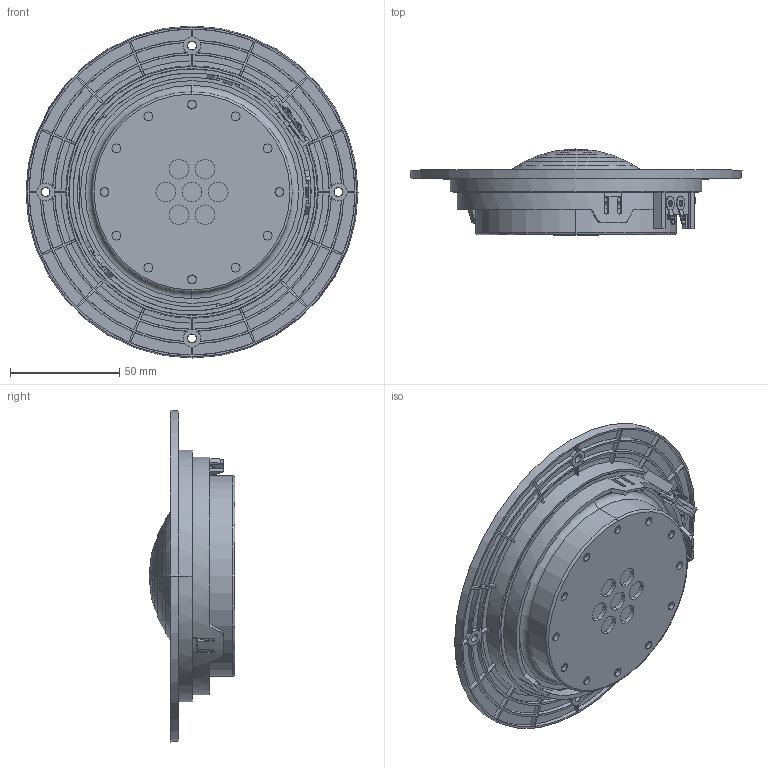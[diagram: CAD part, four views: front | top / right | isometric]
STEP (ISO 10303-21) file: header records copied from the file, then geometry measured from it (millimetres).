
FILE_DESCRIPTION (( 'STEP AP214' ), '1' );
FILE_NAME ('D7608-920010.STEP', '2020-10-22T05:42:41', ( '' ), ( '' ), 'SwSTEP 2.0', 'SolidWorks 2019', '' );
FILE_SCHEMA (( 'AUTOMOTIVE_DESIGN' ));
Length unit declared in the file: millimetre
Products named in the file (1): D7608-920010
Bounding box: 152 x 39.3 x 152 mm (x, y, z)
Volume: 241174 mm3; surface area: 76444.3 mm2
Topology: 1 solids, 22 shells, 829 faces, 2165 edges, 1413 vertices
Faces by surface type: plane 408, cylinder 198, cone 132, torus 71, sphere 12, bspline 8
Entity records: 35232 total; most frequent: CARTESIAN_POINT 6915, ORIENTED_EDGE 4314, DIRECTION 4153, EDGE_CURVE 2157, AXIS2_PLACEMENT_3D 1695, VERTEX_POINT 1413, EDGE_LOOP 912, CIRCLE 873
